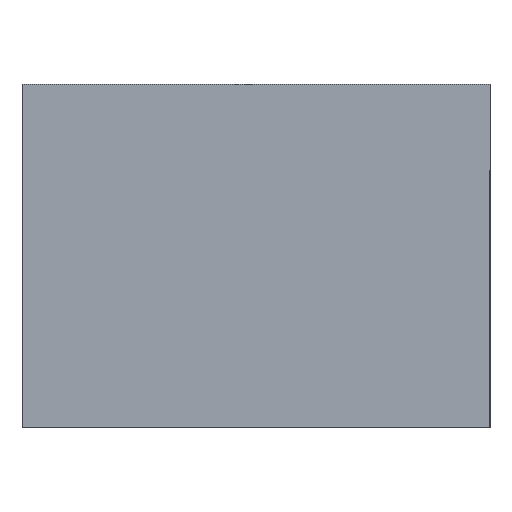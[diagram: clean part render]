
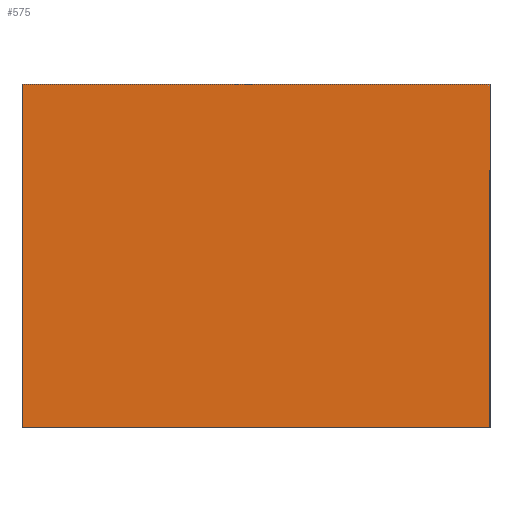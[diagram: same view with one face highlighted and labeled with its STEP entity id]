
A CAD part, front view. The second image highlights one B-rep face of the part: STEP entity #575.
In plain terms, the highlighted planar face has unit normal (0, -1, 0).
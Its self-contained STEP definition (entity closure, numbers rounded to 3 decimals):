
#18 = VECTOR ( 'NONE', #1056, 1000. ) ;
#90 = DIRECTION ( 'NONE',  ( -1., 0., 0. ) ) ;
#149 = ORIENTED_EDGE ( 'NONE', *, *, #1723, .F. ) ;
#260 = CARTESIAN_POINT ( 'NONE',  ( -37.5, 0., 27.5 ) ) ;
#309 = LINE ( 'NONE', #1584, #786 ) ;
#557 = AXIS2_PLACEMENT_3D ( 'NONE', #1972, #2397, #1889 ) ;
#575 = ADVANCED_FACE ( 'NONE', ( #1120 ), #1189, .F. ) ;
#647 = CARTESIAN_POINT ( 'NONE',  ( -37.5, 0., -27.5 ) ) ;
#660 = EDGE_CURVE ( 'NONE', #1586, #2183, #2492, .T. ) ;
#670 = LINE ( 'NONE', #2382, #1775 ) ;
#676 = ORIENTED_EDGE ( 'NONE', *, *, #2388, .F. ) ;
#698 = ORIENTED_EDGE ( 'NONE', *, *, #660, .F. ) ;
#786 = VECTOR ( 'NONE', #1595, 1000. ) ;
#1056 = DIRECTION ( 'NONE',  ( 1., 0., 0. ) ) ;
#1107 = EDGE_LOOP ( 'NONE', ( #2620, #676, #149, #698 ) ) ;
#1120 = FACE_OUTER_BOUND ( 'NONE', #1107, .T. ) ;
#1180 = EDGE_CURVE ( 'NONE', #1362, #1586, #670, .T. ) ;
#1189 = PLANE ( 'NONE',  #557 ) ;
#1362 = VERTEX_POINT ( 'NONE', #1789 ) ;
#1390 = CARTESIAN_POINT ( 'NONE',  ( 37.5, 0., -27.5 ) ) ;
#1584 = CARTESIAN_POINT ( 'NONE',  ( -37.5, 0., -27.5 ) ) ;
#1586 = VERTEX_POINT ( 'NONE', #1390 ) ;
#1595 = DIRECTION ( 'NONE',  ( 0., 0., 1. ) ) ;
#1723 = EDGE_CURVE ( 'NONE', #2183, #2437, #309, .T. ) ;
#1752 = CARTESIAN_POINT ( 'NONE',  ( -37.5, 0., 27.5 ) ) ;
#1775 = VECTOR ( 'NONE', #2645, 1000. ) ;
#1789 = CARTESIAN_POINT ( 'NONE',  ( 37.5, 0., 27.5 ) ) ;
#1889 = DIRECTION ( 'NONE',  ( 0., 0., 1. ) ) ;
#1961 = VECTOR ( 'NONE', #90, 1000. ) ;
#1972 = CARTESIAN_POINT ( 'NONE',  ( 0., 0., 0. ) ) ;
#2183 = VERTEX_POINT ( 'NONE', #647 ) ;
#2382 = CARTESIAN_POINT ( 'NONE',  ( 37.5, 0., -27.5 ) ) ;
#2388 = EDGE_CURVE ( 'NONE', #2437, #1362, #2612, .T. ) ;
#2397 = DIRECTION ( 'NONE',  ( 0., 1., 0. ) ) ;
#2437 = VERTEX_POINT ( 'NONE', #1752 ) ;
#2492 = LINE ( 'NONE', #2600, #1961 ) ;
#2600 = CARTESIAN_POINT ( 'NONE',  ( -37.5, 0., -27.5 ) ) ;
#2612 = LINE ( 'NONE', #260, #18 ) ;
#2620 = ORIENTED_EDGE ( 'NONE', *, *, #1180, .F. ) ;
#2645 = DIRECTION ( 'NONE',  ( 0., 0., -1. ) ) ;
